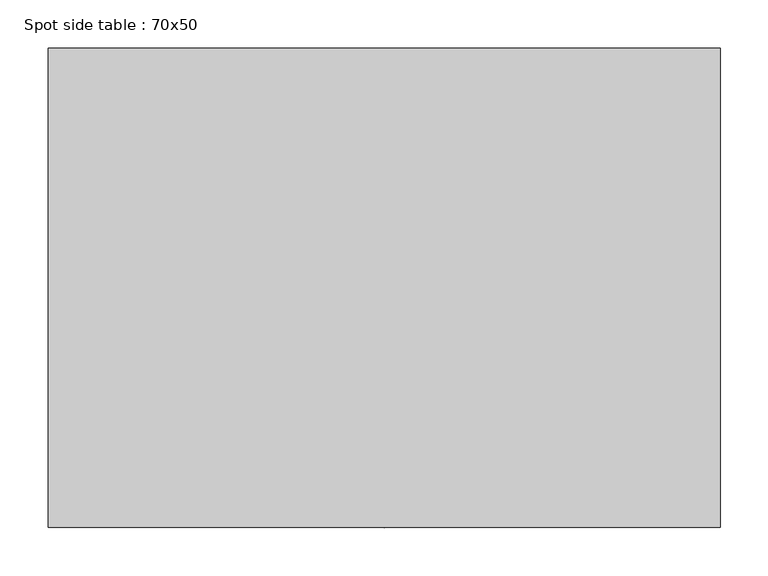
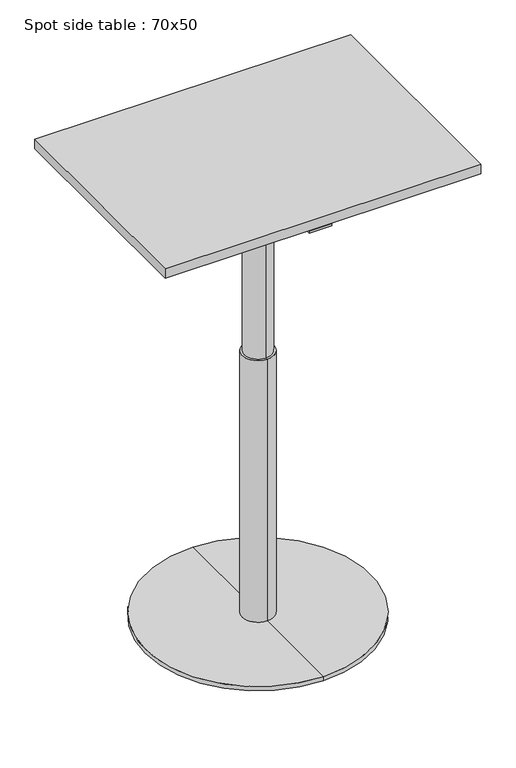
"""IFC4 building model written with IfcOpenShell, lengths in millimetres: furniture geometry, Spot side table : 70x50."""

from ifc_helpers import new_model, si_unit, frame, origin, place, context, project, spatial, polyline, circle_curve, outline, extrude, source, transform, mapped, element, save
from ifc_brep_helpers import plane_surface, cylinder_surface, revolved_surface, advanced_brep


def spot_side_table_70x50_532a96ea(model_context):
    return source(origin(), model_context, "Body", "SolidModel", [
        advanced_brep(
        [(0.0, 35.0, 12.0), (0.0, -35.0, 12.0), (0.0, -35.0, 625.0), (0.0, 35.0, 625.0), (0.0, 250.0, 12.0), (0.0, -250.0, 12.0), (0.0, 250.0, 2.0), (0.0, -250.0, 2.0), (0.0, 0.0, 2.0), (0.0, 150.0, 1068.0), (0.0, -150.0, 1068.0), (0.0, 0.0, 1068.0), (0.0, 150.0, 1056.7213673), (0.0, -150.0, 1056.7213673), (0.0, 30.0, 1037.0795524), (0.0, -30.0, 1037.0795524), (0.0, 30.0, 625.0), (0.0, -30.0, 625.0)],
        [
            (0, 1, circle_curve(frame((0.0, 0.0, 12.0), z_axis=(0.0, 0.0, 1.0), x_axis=(0.0, -1.0, 0.0)), 35.0)),
            (1, 2),
            (2, 3, circle_curve(frame((0.0, 0.0, 625.0), z_axis=(0.0, 0.0, -1.0), x_axis=(0.0, -1.0, 0.0)), 35.0)),
            (3, 0),
            (1, 0, circle_curve(frame((0.0, 0.0, 12.0), z_axis=(0.0, 0.0, 1.0), x_axis=(0.0, -1.0, 0.0)), 35.0)),
            (3, 2, circle_curve(frame((0.0, 0.0, 625.0), z_axis=(0.0, 0.0, -1.0), x_axis=(0.0, -1.0, 0.0)), 35.0)),
            (4, 5, circle_curve(frame((0.0, 0.0, 12.0), z_axis=(0.0, 0.0, 1.0), x_axis=(0.0, -1.0, 0.0)), 250.0)),
            (5, 1),
            (0, 4),
            (5, 4, circle_curve(frame((0.0, 0.0, 12.0), z_axis=(0.0, 0.0, 1.0), x_axis=(0.0, -1.0, 0.0)), 250.0)),
            (6, 7, circle_curve(frame((0.0, 0.0, 2.0), z_axis=(0.0, 0.0, 1.0), x_axis=(0.0, -1.0, 0.0)), 250.0)),
            (7, 5),
            (4, 6),
            (7, 6, circle_curve(frame((0.0, 0.0, 2.0), z_axis=(0.0, 0.0, 1.0), x_axis=(0.0, -1.0, 0.0)), 250.0)),
            (8, 7),
            (6, 8),
            (9, 10, circle_curve(frame((0.0, 0.0, 1068.0), z_axis=(0.0, 0.0, 1.0), x_axis=(0.0, -1.0, 0.0)), 150.0)),
            (10, 11),
            (11, 9),
            (10, 9, circle_curve(frame((0.0, 0.0, 1068.0), z_axis=(0.0, 0.0, 1.0), x_axis=(0.0, -1.0, 0.0)), 150.0)),
            (12, 13, circle_curve(frame((0.0, 0.0, 1056.7213673), z_axis=(0.0, 0.0, 1.0), x_axis=(0.0, -1.0, 0.0)), 150.0)),
            (13, 10),
            (9, 12),
            (13, 12, circle_curve(frame((0.0, 0.0, 1056.7213673), z_axis=(0.0, 0.0, 1.0), x_axis=(0.0, -1.0, 0.0)), 150.0)),
            (14, 15, circle_curve(frame((0.0, 0.0, 1037.0795524), z_axis=(0.0, 0.0, 1.0), x_axis=(0.0, -1.0, 0.0)), 30.0)),
            (15, 13),
            (12, 14),
            (15, 14, circle_curve(frame((0.0, 0.0, 1037.0795524), z_axis=(0.0, 0.0, 1.0), x_axis=(0.0, -1.0, 0.0)), 30.0)),
            (16, 17, circle_curve(frame((0.0, 0.0, 625.0), z_axis=(0.0, 0.0, 1.0), x_axis=(0.0, -1.0, 0.0)), 30.0)),
            (17, 15),
            (14, 16),
            (17, 16, circle_curve(frame((0.0, 0.0, 625.0), z_axis=(0.0, 0.0, 1.0), x_axis=(0.0, -1.0, 0.0)), 30.0)),
            (2, 17),
            (16, 3),
        ],
        [
            cylinder_surface(frame((0.0, 0.0, 1430.0), z_axis=(0.0, 0.0, -1.0), x_axis=(0.0, -1.0, 0.0)), 35.0),
            plane_surface(frame((0.0, 0.0, 12.0), z_axis=(0.0, 0.0, 1.0), x_axis=(0.0, -1.0, 0.0))),
            cylinder_surface(frame((0.0, 0.0, 1430.0), z_axis=(0.0, 0.0, -1.0), x_axis=(0.0, -1.0, 0.0)), 250.0),
            plane_surface(frame((0.0, 0.0, 2.0), z_axis=(0.0, 0.0, -1.0), x_axis=(0.0, -1.0, 0.0))),
            plane_surface(frame((0.0, 0.0, 1068.0), z_axis=(0.0, 0.0, 1.0), x_axis=(0.0, -1.0, 0.0))),
            cylinder_surface(frame((0.0, 0.0, 1430.0), z_axis=(0.0, 0.0, -1.0), x_axis=(0.0, -1.0, 0.0)), 150.0),
            revolved_surface(polyline([(0.0, -150.0, 1056.7213673), (0.0, -30.0, 1037.0795524)]), (0.0, 0.0, 1430.0), (0.0, 0.0, -1.0)),
            cylinder_surface(frame((0.0, 0.0, 1430.0), z_axis=(0.0, 0.0, -1.0), x_axis=(0.0, -1.0, 0.0)), 30.0),
            plane_surface(frame((0.0, 0.0, 625.0), z_axis=(0.0, 0.0, 1.0), x_axis=(0.0, -1.0, 0.0))),
        ],
        [
            (0, [[1, 2, 3, 4]]),
            (0, [[5, -4, 6, -2]]),
            (1, [[7, 8, -1, 9]]),
            (1, [[10, -9, -5, -8]]),
            (2, [[11, 12, -7, 13]]),
            (2, [[14, -13, -10, -12]]),
            (3, [[15, -11, 16]]),
            (3, [[-16, -14, -15]]),
            (4, [[17, 18, 19]]),
            (4, [[20, -19, -18]]),
            (5, [[21, 22, -17, 23]]),
            (5, [[24, -23, -20, -22]]),
            (6, [[25, 26, -21, 27]]),
            (6, [[28, -27, -24, -26]]),
            (7, [[29, 30, -25, 31]]),
            (7, [[32, -31, -28, -30]]),
            (8, [[-3, 33, -29, 34]]),
            (8, [[-6, -34, -32, -33]]),
        ],
    ),
        extrude(outline(polyline([(-200.0, 1058.0), (-200.0, 1068.0), (-155.0, 1068.0), (-155.0, 1054.0), (-240.0, 1054.0), (-240.0, 1058.0), (-200.0, 1058.0)])), frame((-25.0, 0.0, 0.0), z_axis=(1.0, 0.0, 0.0), x_axis=(0.0, 1.0, 0.0)), (0.0, 0.0, 1.0), 50.0),
        extrude(outline(polyline([(-350.0, -250.0), (-350.0, 250.0), (350.0, 250.0), (350.0, -250.0), (-350.0, -250.0)])), frame((0.0, 0.0, 1068.0), z_axis=(0.0, 0.0, 1.0), x_axis=(1.0, 0.0, 0.0)), (0.0, 0.0, 1.0), 22.0),
    ])


if __name__ == "__main__":
    model = new_model("IFC4")
    model_context = context("Model", 3, world=origin())
    ifc_project = project(units=[si_unit("LENGTHUNIT", "METRE", prefix="MILLI")], contexts=[model_context])
    site = spatial("IfcSite", under=ifc_project)
    building = spatial("IfcBuilding", under=site)
    placement = place(None, origin())
    spot_side_table_70x50_shape = spot_side_table_70x50_532a96ea(model_context)
    element("IfcFurniture", 1, ObjectType="Spot side table : 70x50", at=placement, inside=building, context=model_context, shape_type="MappedRepresentation", body=[
        mapped(spot_side_table_70x50_shape, transform((0.0, 0.0, 0.0), x_axis=(1.0, 0.0, 0.0), y_axis=(0.0, 1.0, 0.0), z_axis=(0.0, 0.0, 1.0))),
    ])
    save(model, "model.ifc")
